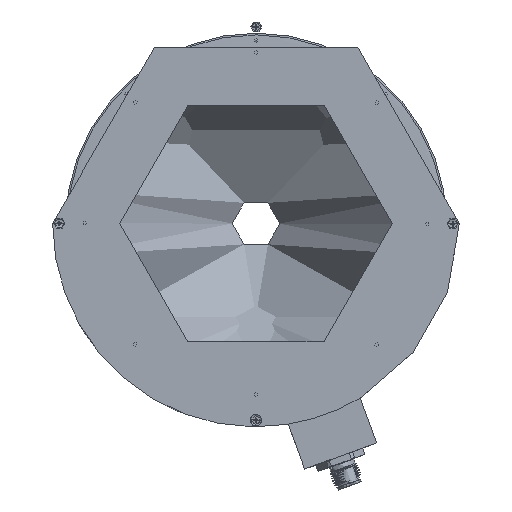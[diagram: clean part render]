
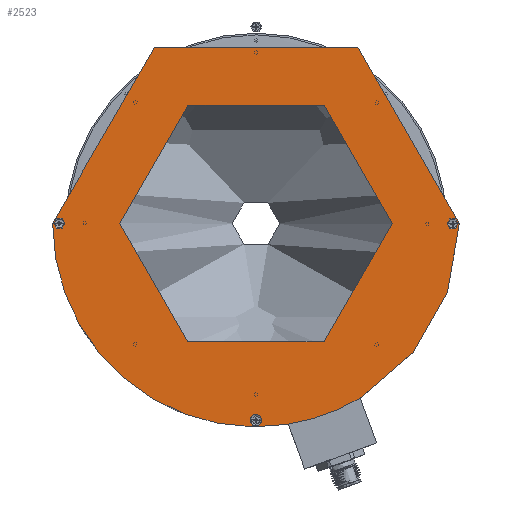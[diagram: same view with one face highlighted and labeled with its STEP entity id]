
A CAD part, front view. The second image highlights one B-rep face of the part: STEP entity #2523.
In plain terms, the highlighted planar face has unit normal (0, -1, 0).
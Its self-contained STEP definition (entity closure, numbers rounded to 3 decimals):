
#2523=ADVANCED_FACE('11:5202',(#5266,#5267,#5268,#5269,#5270,#5271),#5272,.F.);
#5266=FACE_OUTER_BOUND('',#11730,.T.);
#5267=FACE_BOUND('',#11731,.T.);
#5268=FACE_BOUND('',#11732,.T.);
#5269=FACE_BOUND('',#11733,.T.);
#5270=FACE_BOUND('',#11734,.T.);
#5271=FACE_BOUND('',#11735,.T.);
#5272=PLANE('',#11736);
#11730=EDGE_LOOP('',(#19257,#19258,#19259,#19260,#19261,#19262));
#11731=EDGE_LOOP('',(#19263,#19264));
#11732=EDGE_LOOP('',(#19265,#19266));
#11733=EDGE_LOOP('',(#19267,#19268));
#11734=EDGE_LOOP('',(#19269,#19270));
#11735=EDGE_LOOP('',(#19271,#19272));
#11736=AXIS2_PLACEMENT_3D('',#19273,#19274,#19275);
#19257=ORIENTED_EDGE('',*,*,#23442,.T.);
#19258=ORIENTED_EDGE('',*,*,#20986,.F.);
#19259=ORIENTED_EDGE('',*,*,#23468,.F.);
#19260=ORIENTED_EDGE('',*,*,#20983,.F.);
#19261=ORIENTED_EDGE('',*,*,#23413,.T.);
#19262=ORIENTED_EDGE('',*,*,#23408,.T.);
#19263=ORIENTED_EDGE('',*,*,#20791,.T.);
#19264=ORIENTED_EDGE('',*,*,#23563,.T.);
#19265=ORIENTED_EDGE('',*,*,#20796,.T.);
#19266=ORIENTED_EDGE('',*,*,#23560,.T.);
#19267=ORIENTED_EDGE('',*,*,#20803,.T.);
#19268=ORIENTED_EDGE('',*,*,#23558,.T.);
#19269=ORIENTED_EDGE('',*,*,#20808,.T.);
#19270=ORIENTED_EDGE('',*,*,#23555,.T.);
#19271=ORIENTED_EDGE('',*,*,#23492,.T.);
#19272=ORIENTED_EDGE('',*,*,#20951,.T.);
#19273=CARTESIAN_POINT('',(0.,-9.95,0.02));
#19274=DIRECTION('',(0.,1.0,0.));
#19275=DIRECTION('',(1.,0.,-0.001));
#20791=EDGE_CURVE('11:10137',#24341,#24338,#24342,.T.);
#20796=EDGE_CURVE('11:10131',#24349,#24346,#24350,.T.);
#20803=EDGE_CURVE('11:10128',#24361,#24359,#24362,.T.);
#20808=EDGE_CURVE('11:10122',#24370,#24367,#24371,.T.);
#20951=EDGE_CURVE('11:10002',#24605,#24609,#24611,.T.);
#20983=EDGE_CURVE('11:9954',#24667,#24659,#24669,.T.);
#20986=EDGE_CURVE('11:9954',#24671,#24674,#24675,.T.);
#23408=EDGE_CURVE('11:9786',#28279,#28280,#28281,.T.);
#23413=EDGE_CURVE('11:9798',#24667,#28279,#28288,.T.);
#23442=EDGE_CURVE('11:9858',#28280,#24674,#28321,.T.);
#23468=EDGE_CURVE('11:9954',#24659,#24671,#28351,.T.);
#23492=EDGE_CURVE('11:10002',#24609,#24605,#28377,.T.);
#23555=EDGE_CURVE('11:10122',#24367,#24370,#28440,.T.);
#23558=EDGE_CURVE('11:10128',#24359,#24361,#28443,.T.);
#23560=EDGE_CURVE('11:10131',#24346,#24349,#28445,.T.);
#23563=EDGE_CURVE('11:10137',#24338,#24341,#28448,.T.);
#24338=VERTEX_POINT('',#29693);
#24341=VERTEX_POINT('',#29697);
#24342=CIRCLE('',#29698,2.35);
#24346=VERTEX_POINT('',#29718);
#24349=VERTEX_POINT('',#29722);
#24350=CIRCLE('',#29723,2.35);
#24359=VERTEX_POINT('',#29769);
#24361=VERTEX_POINT('',#29772);
#24362=CIRCLE('',#29773,2.35);
#24367=VERTEX_POINT('',#29794);
#24370=VERTEX_POINT('',#29798);
#24371=CIRCLE('',#29799,2.35);
#24605=VERTEX_POINT('',#30153);
#24609=VERTEX_POINT('',#30158);
#24611=CIRCLE('',#30161,57.0);
#24659=VERTEX_POINT('',#30219);
#24667=VERTEX_POINT('',#30229);
#24669=CIRCLE('',#30232,85.0);
#24671=VERTEX_POINT('',#30234);
#24674=VERTEX_POINT('',#30238);
#24675=CIRCLE('',#30239,85.0);
#28279=VERTEX_POINT('',#42065);
#28280=VERTEX_POINT('',#42066);
#28281=CIRCLE('',#42067,85.);
#28288=LINE('',#42076,#42077);
#28321=LINE('',#42186,#42187);
#28351=CIRCLE('',#42307,85.0);
#28377=CIRCLE('',#42333,57.0);
#28440=CIRCLE('',#42396,2.35);
#28443=CIRCLE('',#42414,2.35);
#28445=CIRCLE('',#42416,2.35);
#28448=CIRCLE('',#42434,2.35);
#29693=CARTESIAN_POINT('',(2.443,-9.95,82.218));
#29697=CARTESIAN_POINT('',(-2.257,-9.95,82.223));
#29698=AXIS2_PLACEMENT_3D('',#43987,#43988,#43989);
#29718=CARTESIAN_POINT('',(-79.85,-9.95,0.111));
#29722=CARTESIAN_POINT('',(-84.55,-9.95,0.116));
#29723=AXIS2_PLACEMENT_3D('',#43992,#43993,#43994);
#29769=CARTESIAN_POINT('',(2.257,-9.95,-82.182));
#29772=CARTESIAN_POINT('',(-2.443,-9.95,-82.177));
#29773=AXIS2_PLACEMENT_3D('',#43997,#43998,#43999);
#29794=CARTESIAN_POINT('',(84.55,-9.95,-0.076));
#29798=CARTESIAN_POINT('',(79.85,-9.95,-0.07));
#29799=AXIS2_PLACEMENT_3D('',#44002,#44003,#44004);
#30153=CARTESIAN_POINT('',(57.,-9.95,-0.044));
#30158=CARTESIAN_POINT('',(-57.,-9.95,0.085));
#30161=AXIS2_PLACEMENT_3D('',#44220,#44221,#44222);
#30219=CARTESIAN_POINT('',(-85.,-9.95,0.117));
#30229=CARTESIAN_POINT('',(13.517,-9.95,-83.898));
#30232=AXIS2_PLACEMENT_3D('',#44272,#44273,#44274);
#30234=CARTESIAN_POINT('',(85.,-9.95,-0.076));
#30238=CARTESIAN_POINT('',(43.587,-9.95,-72.953));
#30239=AXIS2_PLACEMENT_3D('',#44276,#44277,#44278);
#42065=CARTESIAN_POINT('',(13.493,-9.95,-83.832));
#42066=CARTESIAN_POINT('',(43.563,-9.95,-72.887));
#42067=AXIS2_PLACEMENT_3D('',#46359,#46360,#46361);
#42076=CARTESIAN_POINT('',(0.939,-9.95,-49.34));
#42077=VECTOR('',#46367,1.0);
#42186=CARTESIAN_POINT('',(31.009,-9.95,-38.396));
#42187=VECTOR('',#46396,1.0);
#42307=AXIS2_PLACEMENT_3D('',#46424,#46425,#46426);
#42333=AXIS2_PLACEMENT_3D('',#46460,#46461,#46462);
#42396=AXIS2_PLACEMENT_3D('',#46559,#46560,#46561);
#42414=AXIS2_PLACEMENT_3D('',#46562,#46563,#46564);
#42416=AXIS2_PLACEMENT_3D('',#46565,#46566,#46567);
#42434=AXIS2_PLACEMENT_3D('',#46568,#46569,#46570);
#43987=CARTESIAN_POINT('',(0.093,-9.95,82.22));
#43988=DIRECTION('',(0.,1.0,0.));
#43989=DIRECTION('',(1.,0.,-0.001));
#43992=CARTESIAN_POINT('',(-82.2,-9.95,0.114));
#43993=DIRECTION('',(0.,1.0,0.));
#43994=DIRECTION('',(1.,0.,-0.001));
#43997=CARTESIAN_POINT('',(-0.093,-9.95,-82.18));
#43998=DIRECTION('',(0.,1.0,0.));
#43999=DIRECTION('',(1.,0.,-0.001));
#44002=CARTESIAN_POINT('',(82.2,-9.95,-0.073));
#44003=DIRECTION('',(0.,1.0,0.));
#44004=DIRECTION('',(1.,0.,-0.001));
#44220=CARTESIAN_POINT('',(0.,-9.95,0.02));
#44221=DIRECTION('',(0.,1.0,0.));
#44222=DIRECTION('',(1.,0.,-0.001));
#44272=CARTESIAN_POINT('',(0.,-9.95,0.02));
#44273=DIRECTION('',(0.,1.0,0.));
#44274=DIRECTION('',(1.,0.,-0.001));
#44276=CARTESIAN_POINT('',(0.,-9.95,0.02));
#44277=DIRECTION('',(0.,1.0,0.));
#44278=DIRECTION('',(1.,0.,-0.001));
#46359=CARTESIAN_POINT('',(-0.024,-9.95,0.086));
#46360=DIRECTION('',(0.,-1.0,0.));
#46361=DIRECTION('',(0.159,0.,-0.987));
#46367=DIRECTION('',(-0.342,0.,0.94));
#46396=DIRECTION('',(0.342,0.,-0.94));
#46424=CARTESIAN_POINT('',(0.,-9.95,0.02));
#46425=DIRECTION('',(0.,1.0,0.));
#46426=DIRECTION('',(1.,0.,-0.001));
#46460=CARTESIAN_POINT('',(0.,-9.95,0.02));
#46461=DIRECTION('',(0.,1.0,0.));
#46462=DIRECTION('',(1.,0.,-0.001));
#46559=CARTESIAN_POINT('',(82.2,-9.95,-0.073));
#46560=DIRECTION('',(0.,1.0,0.));
#46561=DIRECTION('',(1.,0.,-0.001));
#46562=CARTESIAN_POINT('',(-0.093,-9.95,-82.18));
#46563=DIRECTION('',(0.,1.0,0.));
#46564=DIRECTION('',(1.,0.,-0.001));
#46565=CARTESIAN_POINT('',(-82.2,-9.95,0.114));
#46566=DIRECTION('',(0.,1.0,0.));
#46567=DIRECTION('',(1.,0.,-0.001));
#46568=CARTESIAN_POINT('',(0.093,-9.95,82.22));
#46569=DIRECTION('',(0.,1.0,0.));
#46570=DIRECTION('',(1.,0.,-0.001));
